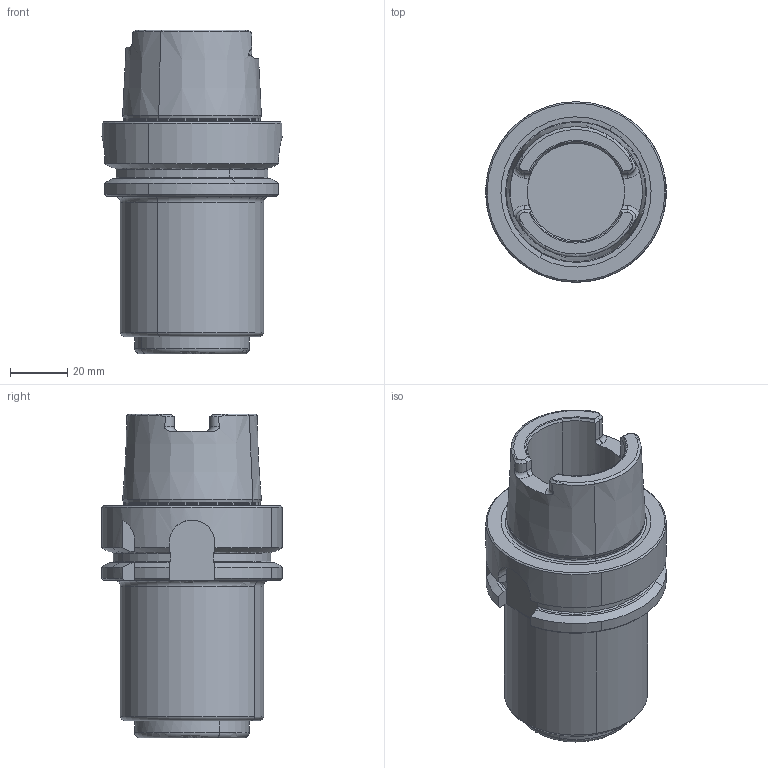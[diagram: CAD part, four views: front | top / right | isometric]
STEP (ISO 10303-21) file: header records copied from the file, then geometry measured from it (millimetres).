
FILE_DESCRIPTION(('CATIA V5 STEP','CAx-IF Rec.Pracs.--- Model Styling and Organization---1.2---2011-12-15'),'2;1');
FILE_NAME('\\nas01\drv1\utils\eitdev\rte\eit\transmagicconvert\db\out\4509171 L.stp','2014-03-17T09:44:57+00:00',('none'),('none'),'CATIA Version 5 Release 21 SP 5 (IN-10)','CATIA V5 STEP AP214','none');
FILE_SCHEMA(('AUTOMOTIVE_DESIGN { 1 0 10303 214 1 1 1 1 }'));
Length unit declared in the file: millimetre
Products named in the file (1): 60930568_0  HSK A 63 ER32 SHORT
Bounding box: 63 x 63 x 113 mm (x, y, z)
Volume: 193065 mm3; surface area: 29223.1 mm2
Topology: 1 solids, 1 shells, 138 faces, 362 edges, 229 vertices
Faces by surface type: plane 43, cylinder 34, cone 31, torus 30
Entity records: 4386 total; most frequent: CARTESIAN_POINT 1371, ORIENTED_EDGE 724, DIRECTION 445, EDGE_CURVE 362, AXIS2_PLACEMENT_3D 241, VERTEX_POINT 229, CIRCLE 158, EDGE_LOOP 141
